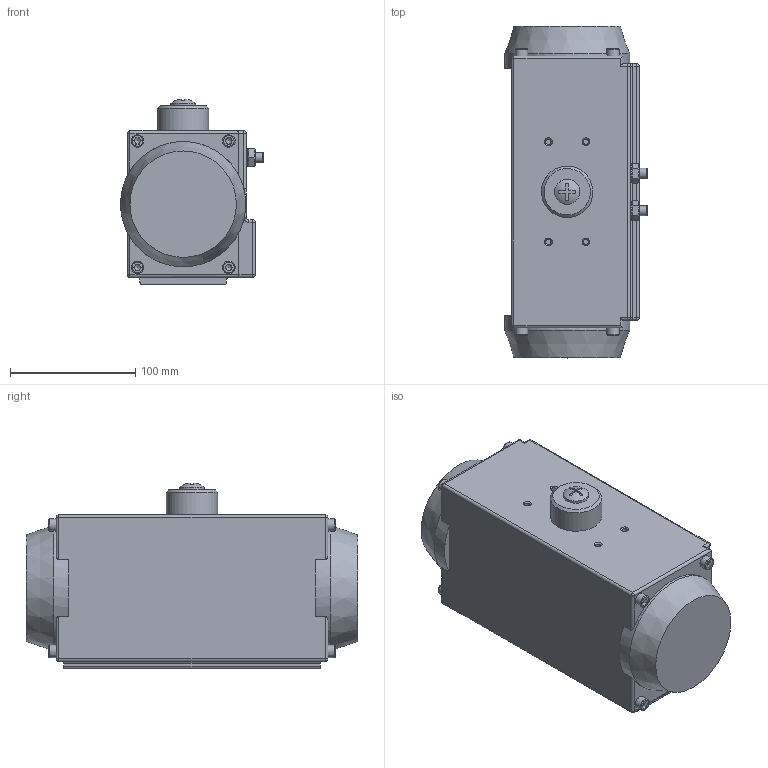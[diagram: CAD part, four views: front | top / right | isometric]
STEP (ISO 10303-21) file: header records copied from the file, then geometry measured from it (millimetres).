
FILE_DESCRIPTION(('STEP AP203'), '1');
FILE_NAME('3D_930-DA_SR-0133-17õ17', '', ('UNSPECIFIED'), ('UNSPECIFIED'), 'C3D Converter', 'C3D Toolkit', '');
FILE_SCHEMA(('CONFIG_CONTROL_DESIGN'));
Length unit declared in the file: millimetre
Bounding box: 114.11 x 265 x 148.44 mm (x, y, z)
Volume: 2883343.4 mm3; surface area: 150242.9 mm2
Topology: 1 solids, 6 shells, 459 faces, 1082 edges, 683 vertices
Faces by surface type: plane 282, cylinder 106, cone 40, torus 17, sphere 14
Full cylindrical faces by diameter (mm): 2.5 x2, 4.2 x8, 6 x13, 8 x8, 10 x8, 11.4 x2, 15 x2, 20 x1, 38.5 x1, 41 x1, 100 x2
Entity records: 19113 total; most frequent: CARTESIAN_POINT 5194, DIRECTION 2148, ORIENTED_EDGE 1956, EDGE_CURVE 978, AXIS2_PLACEMENT_3D 794, VERTEX_POINT 670, EDGE_LOOP 602, LINE 560
